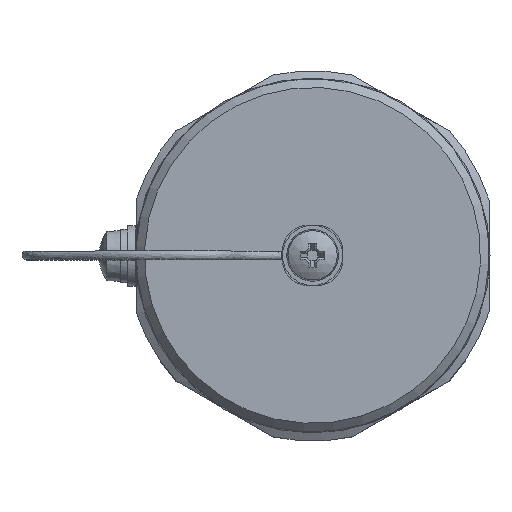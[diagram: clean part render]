
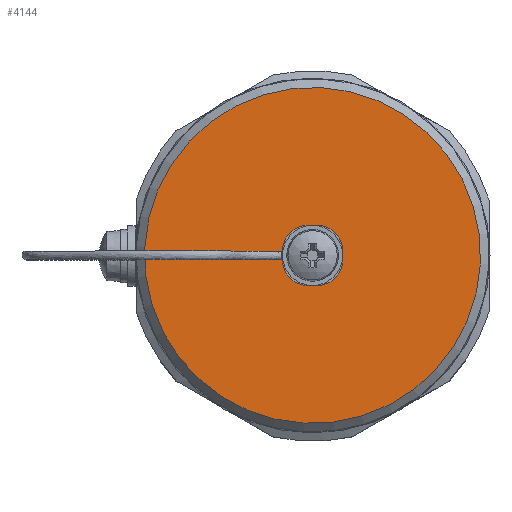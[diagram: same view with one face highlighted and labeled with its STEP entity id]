
A CAD part, top view. The second image highlights one B-rep face of the part: STEP entity #4144.
In plain terms, the highlighted planar face has unit normal (0, 0, 1).
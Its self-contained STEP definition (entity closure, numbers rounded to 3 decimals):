
#36 = CARTESIAN_POINT ( 'NONE',  ( 0.5, -3.5, 36. ) ) ;
#67 = EDGE_CURVE ( 'NONE', #1567, #3349, #2813, .T. ) ;
#105 = CARTESIAN_POINT ( 'NONE',  ( -3.676, -0.491, 36. ) ) ;
#238 = LINE ( 'NONE', #36, #4011 ) ;
#245 = ORIENTED_EDGE ( 'NONE', *, *, #67, .T. ) ;
#307 = ORIENTED_EDGE ( 'NONE', *, *, #1269, .F. ) ;
#399 = CARTESIAN_POINT ( 'NONE',  ( -4.167, 0.303, 36. ) ) ;
#425 = CARTESIAN_POINT ( 'NONE',  ( -3.932, 0.428, 36. ) ) ;
#444 = EDGE_CURVE ( 'NONE', #5347, #5347, #1490, .T. ) ;
#455 = CARTESIAN_POINT ( 'NONE',  ( -0.5, 0.5, 36. ) ) ;
#531 = CARTESIAN_POINT ( 'NONE',  ( -18.641, -5.723, 36. ) ) ;
#600 = VERTEX_POINT ( 'NONE', #5418 ) ;
#692 = EDGE_LOOP ( 'NONE', ( #716, #3410, #3105, #245, #3650, #702, #307, #4072 ) ) ;
#702 = ORIENTED_EDGE ( 'NONE', *, *, #723, .T. ) ;
#716 = ORIENTED_EDGE ( 'NONE', *, *, #5094, .F. ) ;
#723 = EDGE_CURVE ( 'NONE', #4895, #2200, #238, .T. ) ;
#797 = CARTESIAN_POINT ( 'NONE',  ( 3.5, 0.5, 36. ) ) ;
#819 = LINE ( 'NONE', #3379, #1691 ) ;
#821 = VERTEX_POINT ( 'NONE', #4143 ) ;
#913 = PLANE ( 'NONE',  #5419 ) ;
#961 = DIRECTION ( 'NONE',  ( 1., 0., 0. ) ) ;
#1103 = VERTEX_POINT ( 'NONE', #5339 ) ;
#1134 = CARTESIAN_POINT ( 'NONE',  ( -0.5, 3.5, 36. ) ) ;
#1226 = CIRCLE ( 'NONE', #1612, 3. ) ;
#1269 = EDGE_CURVE ( 'NONE', #600, #2200, #2560, .T. ) ;
#1326 = CARTESIAN_POINT ( 'NONE',  ( 3.5, 0.5, 36. ) ) ;
#1490 = CIRCLE ( 'NONE', #5820, 19.5 ) ;
#1556 = CARTESIAN_POINT ( 'NONE',  ( -4.286, -0.174, 36. ) ) ;
#1567 = VERTEX_POINT ( 'NONE', #797 ) ;
#1612 = AXIS2_PLACEMENT_3D ( 'NONE', #455, #2965, #2506 ) ;
#1621 = CIRCLE ( 'NONE', #2985, 3. ) ;
#1668 = ORIENTED_EDGE ( 'NONE', *, *, #444, .F. ) ;
#1691 = VECTOR ( 'NONE', #5869, 1000. ) ;
#2031 = AXIS2_PLACEMENT_3D ( 'NONE', #4359, #4795, #5811 ) ;
#2200 = VERTEX_POINT ( 'NONE', #3395 ) ;
#2265 = CARTESIAN_POINT ( 'NONE',  ( 0.5, 0.5, 36. ) ) ;
#2275 = EDGE_CURVE ( 'NONE', #1103, #600, #5962, .T. ) ;
#2295 = CARTESIAN_POINT ( 'NONE',  ( 0., 0., 36. ) ) ;
#2427 = CARTESIAN_POINT ( 'NONE',  ( -3.589, 0.5, 36. ) ) ;
#2492 = CARTESIAN_POINT ( 'NONE',  ( -3.847, 0.455, 36. ) ) ;
#2506 = DIRECTION ( 'NONE',  ( -0.707, 0.707, 0. ) ) ;
#2560 = CIRCLE ( 'NONE', #4490, 3. ) ;
#2813 = LINE ( 'NONE', #1326, #6341 ) ;
#2885 = DIRECTION ( 'NONE',  ( 0., -1., 0. ) ) ;
#2903 = CARTESIAN_POINT ( 'NONE',  ( -3.5, 0.5, 36. ) ) ;
#2927 = CARTESIAN_POINT ( 'NONE',  ( -4.331, -0.09, 36. ) ) ;
#2956 = CARTESIAN_POINT ( 'NONE',  ( -4.091, 0.352, 36. ) ) ;
#2965 = DIRECTION ( 'NONE',  ( 0., 0., 1. ) ) ;
#2985 = AXIS2_PLACEMENT_3D ( 'NONE', #2265, #4634, #3265 ) ;
#3105 = ORIENTED_EDGE ( 'NONE', *, *, #4891, .F. ) ;
#3265 = DIRECTION ( 'NONE',  ( 0.707, 0.707, 0. ) ) ;
#3296 = DIRECTION ( 'NONE',  ( -0.956, -0.293, 0. ) ) ;
#3349 = VERTEX_POINT ( 'NONE', #6213 ) ;
#3375 = CARTESIAN_POINT ( 'NONE',  ( -3.676, 0.491, 36. ) ) ;
#3379 = CARTESIAN_POINT ( 'NONE',  ( -0.5, 3.5, 36. ) ) ;
#3395 = CARTESIAN_POINT ( 'NONE',  ( -0.5, -3.5, 36. ) ) ;
#3410 = ORIENTED_EDGE ( 'NONE', *, *, #5679, .T. ) ;
#3432 = CARTESIAN_POINT ( 'NONE',  ( 0., 0., 36. ) ) ;
#3463 = CARTESIAN_POINT ( 'NONE',  ( -3.932, -0.428, 36. ) ) ;
#3485 = CARTESIAN_POINT ( 'NONE',  ( -4.09, -0.352, 36. ) ) ;
#3526 = CARTESIAN_POINT ( 'NONE',  ( -4.165, -0.302, 36. ) ) ;
#3549 = CARTESIAN_POINT ( 'NONE',  ( -3.847, -0.456, 36. ) ) ;
#3650 = ORIENTED_EDGE ( 'NONE', *, *, #6277, .F. ) ;
#3732 = CIRCLE ( 'NONE', #2031, 3. ) ;
#3841 = CARTESIAN_POINT ( 'NONE',  ( -4.328, 0.089, 36. ) ) ;
#3895 = DIRECTION ( 'NONE',  ( 0., 0., 1. ) ) ;
#3969 = CARTESIAN_POINT ( 'NONE',  ( -3.5, -0.5, 36. ) ) ;
#4011 = VECTOR ( 'NONE', #5544, 1000. ) ;
#4072 = ORIENTED_EDGE ( 'NONE', *, *, #2275, .F. ) ;
#4141 = CARTESIAN_POINT ( 'NONE',  ( 0.5, -3.5, 36. ) ) ;
#4143 = CARTESIAN_POINT ( 'NONE',  ( 0.5, 3.5, 36. ) ) ;
#4144 = ADVANCED_FACE ( 'NONE', ( #4609, #5772 ), #913, .T. ) ;
#4359 = CARTESIAN_POINT ( 'NONE',  ( 0.5, -0.5, 36. ) ) ;
#4381 = VERTEX_POINT ( 'NONE', #1134 ) ;
#4490 = AXIS2_PLACEMENT_3D ( 'NONE', #4809, #5306, #5960 ) ;
#4526 = CARTESIAN_POINT ( 'NONE',  ( -3.588, -0.499, 36. ) ) ;
#4609 = FACE_BOUND ( 'NONE', #692, .T. ) ;
#4634 = DIRECTION ( 'NONE',  ( 0., 0., 1. ) ) ;
#4795 = DIRECTION ( 'NONE',  ( 0., 0., 1. ) ) ;
#4809 = CARTESIAN_POINT ( 'NONE',  ( -0.5, -0.5, 36. ) ) ;
#4853 = EDGE_LOOP ( 'NONE', ( #1668 ) ) ;
#4891 = EDGE_CURVE ( 'NONE', #1567, #821, #1621, .T. ) ;
#4895 = VERTEX_POINT ( 'NONE', #4141 ) ;
#5094 = EDGE_CURVE ( 'NONE', #4381, #1103, #1226, .T. ) ;
#5306 = DIRECTION ( 'NONE',  ( 0., 0., 1. ) ) ;
#5339 = CARTESIAN_POINT ( 'NONE',  ( -3.5, 0.5, 36. ) ) ;
#5347 = VERTEX_POINT ( 'NONE', #531 ) ;
#5418 = CARTESIAN_POINT ( 'NONE',  ( -3.5, -0.5, 36. ) ) ;
#5419 = AXIS2_PLACEMENT_3D ( 'NONE', #3432, #3895, #961 ) ;
#5544 = DIRECTION ( 'NONE',  ( -1., 0., 0. ) ) ;
#5679 = EDGE_CURVE ( 'NONE', #4381, #821, #819, .T. ) ;
#5772 = FACE_OUTER_BOUND ( 'NONE', #4853, .T. ) ;
#5811 = DIRECTION ( 'NONE',  ( 0.707, -0.707, 0. ) ) ;
#5820 = AXIS2_PLACEMENT_3D ( 'NONE', #2295, #6094, #3296 ) ;
#5866 = CARTESIAN_POINT ( 'NONE',  ( -4.285, 0.173, 36. ) ) ;
#5869 = DIRECTION ( 'NONE',  ( 1., 0., 0. ) ) ;
#5960 = DIRECTION ( 'NONE',  ( -0.707, -0.707, 0. ) ) ;
#5962 = B_SPLINE_CURVE_WITH_KNOTS ( 'NONE', 3,
 ( #2903, #2427, #3375, #2492, #425, #2956, #399, #5866, #3841, #2927, #1556, #3526, #3485, #3463, #3549, #105, #4526, #3969 ),
 .UNSPECIFIED., .F., .F.,
 ( 4, 2, 2, 2, 2, 2, 2, 2, 4 ),
 ( 0., 0., 0.001, 0.001, 0.001, 0.001, 0.002, 0.002, 0.002 ),
 .UNSPECIFIED. ) ;
#6094 = DIRECTION ( 'NONE',  ( 0., 0., -1. ) ) ;
#6213 = CARTESIAN_POINT ( 'NONE',  ( 3.5, -0.5, 36. ) ) ;
#6277 = EDGE_CURVE ( 'NONE', #4895, #3349, #3732, .T. ) ;
#6341 = VECTOR ( 'NONE', #2885, 1000. ) ;
